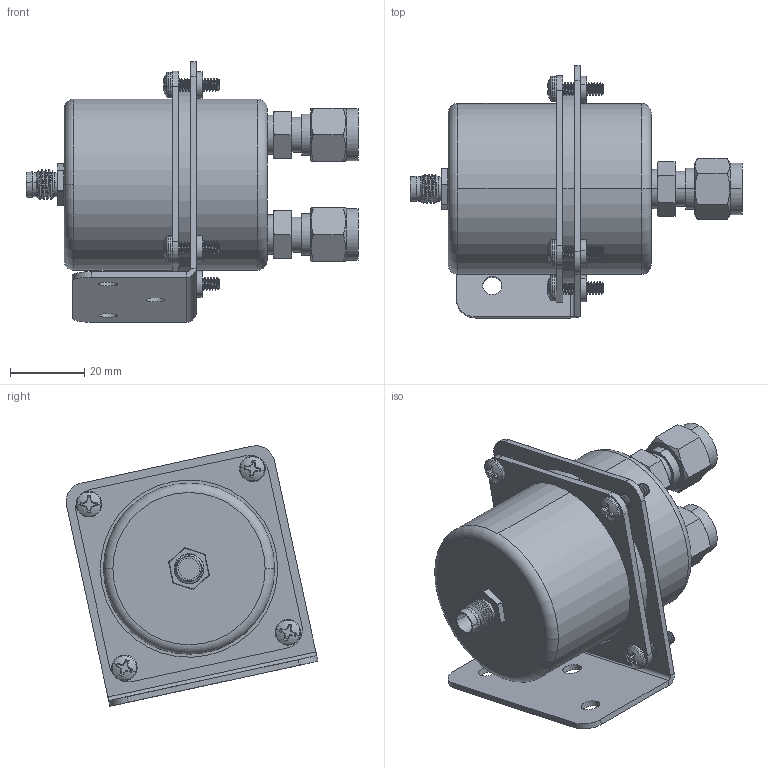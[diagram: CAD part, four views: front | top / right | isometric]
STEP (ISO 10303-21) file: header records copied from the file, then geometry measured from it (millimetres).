
FILE_DESCRIPTION (( 'STEP AP214' ), '1' );
FILE_NAME ('4ANA0045b.STEP', '2023-10-10T15:33:28', ( '' ), ( '' ), 'SwSTEP 2.0', 'SolidWorks 2022', '' );
FILE_SCHEMA (( 'AUTOMOTIVE_DESIGN' ));
Length unit declared in the file: inch
Products named in the file (13): 1FIT07; 2PRB17; 1SCR14_90272A148; 4ANA0045b; 2BRK52; 2PRB16_DOD; 4BRK52; SL-632-1; 2BRK52P^4BRK52; 3CON05; 2BRK53; 4BRK53
Assembly tree (18 placements, depth 4):
  4ANA0045b
    2PRB17
    3CON05
    1FIT07  x2
    2PRB16_DOD
    4BRK52
      2BRK52
        2BRK52
        SL-632-1  x4
    4BRK53
      2BRK53
    1SCR14_90272A148  x4
  2BRK52P^4BRK52
Bounding box: 89.19 x 67.63 x 69.96 mm (x, y, z)
Volume: 108473.1 mm3; surface area: 33285.2 mm2
Topology: 15 solids, 15 shells, 1091 faces, 2883 edges, 1870 vertices
Faces by surface type: cylinder 543, plane 365, cone 125, torus 32, bspline 16, sphere 10
Entity records: 17386 total; most frequent: CARTESIAN_POINT 6885, ORIENTED_EDGE 2204, DIRECTION 2009, EDGE_CURVE 1102, AXIS2_PLACEMENT_3D 771, VERTEX_POINT 707, EDGE_LOOP 487, LINE 467
